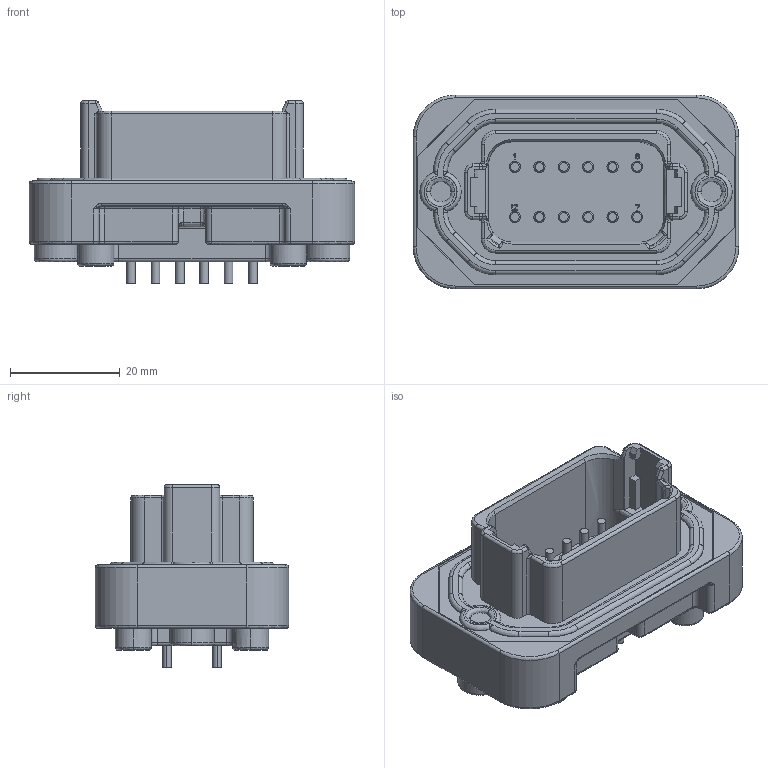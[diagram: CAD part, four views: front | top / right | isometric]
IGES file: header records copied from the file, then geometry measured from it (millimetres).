
Start section:  PTC IGES file: c-dt15-12pa-g003-99-3d.igs
Global section: file name: c-dt15-12pa-g003-99-3d.igs; native system: Pro/ENGINEER by Parametric Technology Corporation; preprocessor: 2010430; author: workeradm; organization: Unknown; units: millimetre
Bounding box: 59.21 x 35.26 x 33.22 mm (x, y, z)
Surface area: 11464.4 mm2 (no closed solid volume)
Topology: 0 solids, 0 shells, 674 faces, 3342 edges, 3342 vertices
Faces by surface type: revolution 368, bspline 306
